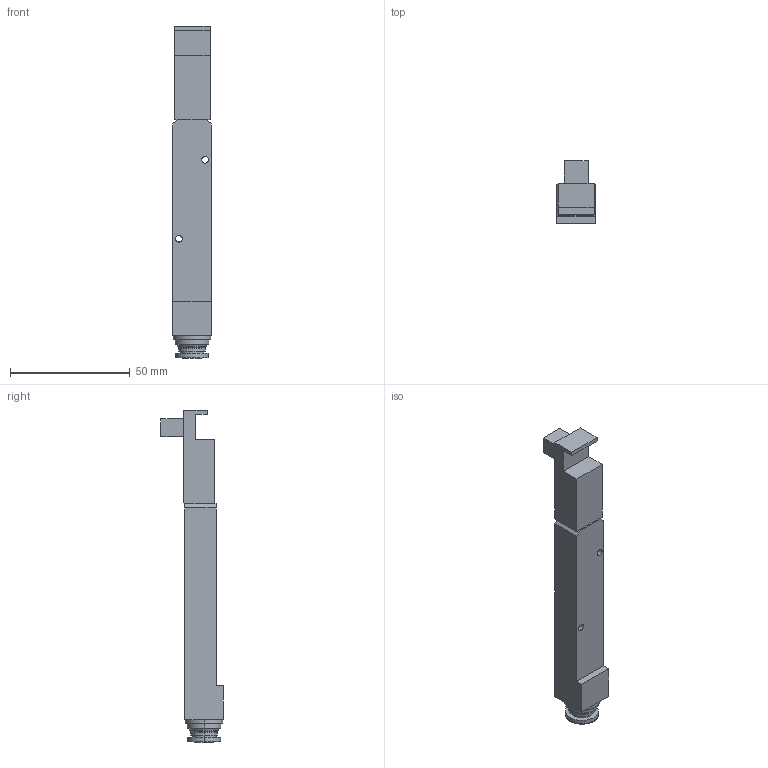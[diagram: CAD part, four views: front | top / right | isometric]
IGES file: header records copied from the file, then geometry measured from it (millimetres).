
Start section: ------------------------------------------------------------------------
Global section: file name: D:\ICADMX\tmp\trans3d_spg\CVICAD02.3912.F15ZX-XPx8_16805.igs; native system: spGate; preprocessor: ver12.6.6; author: Unknown; organization: Unknown; date: 210712.184852; units: millimetre
Bounding box: 16 x 26.1 x 138.9 mm (x, y, z)
Volume: 27121 mm3; surface area: 9328.1 mm2
Topology: 1 solids, 1 shells, 62 faces, 145 edges, 92 vertices
Faces by surface type: bspline 62
